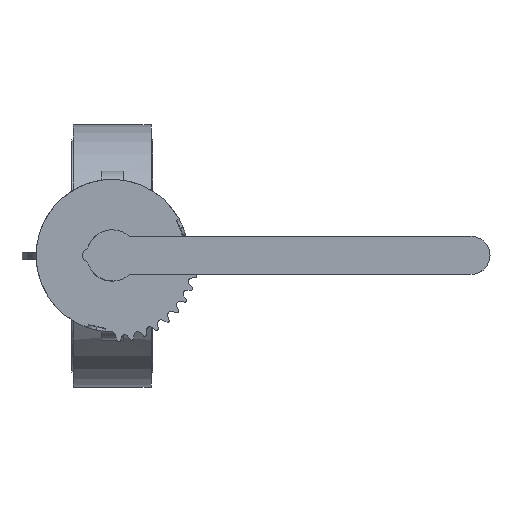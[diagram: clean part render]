
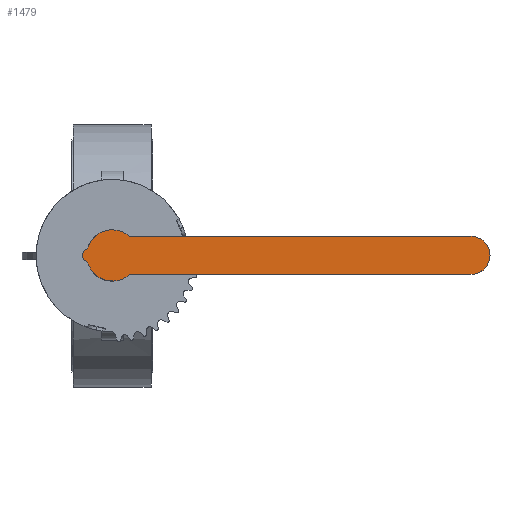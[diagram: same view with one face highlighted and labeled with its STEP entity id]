
A CAD part, top view. The second image highlights one B-rep face of the part: STEP entity #1479.
In plain terms, the highlighted planar face has unit normal (0, 0, 1).
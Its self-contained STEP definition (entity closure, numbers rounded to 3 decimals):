
#1479=ADVANCED_FACE('',(#3061),#3063,.T.);
#3061=FACE_BOUND('',#3062,.T.);
#3062=EDGE_LOOP('',(#4220,#4221,#4222,#4223,#4224,#4225,#4226,#4227));
#3063=PLANE('',#3064);
#3064=AXIS2_PLACEMENT_3D('',#3065,#3066,#3067);
#3065=CARTESIAN_POINT('',(0.,0.,220.));
#3066=DIRECTION('',(0.,0.,1.));
#3067=DIRECTION('',(1.,0.,0.));
#4220=ORIENTED_EDGE('',*,*,#4885,.T.);
#4221=ORIENTED_EDGE('',*,*,#4886,.T.);
#4222=ORIENTED_EDGE('',*,*,#4826,.T.);
#4223=ORIENTED_EDGE('',*,*,#4884,.T.);
#4224=ORIENTED_EDGE('',*,*,#4887,.T.);
#4225=ORIENTED_EDGE('',*,*,#4879,.T.);
#4226=ORIENTED_EDGE('',*,*,#4822,.T.);
#4227=ORIENTED_EDGE('',*,*,#4888,.T.);
#4822=EDGE_CURVE('',#5622,#5620,#5623,.T.);
#4826=EDGE_CURVE('',#5630,#5628,#5631,.T.);
#4879=EDGE_CURVE('',#5725,#5622,#5726,.T.);
#4884=EDGE_CURVE('',#5628,#5731,#5733,.T.);
#4885=EDGE_CURVE('',#5734,#5735,#5736,.F.);
#4886=EDGE_CURVE('',#5735,#5630,#5737,.T.);
#4887=EDGE_CURVE('',#5731,#5725,#5738,.T.);
#4888=EDGE_CURVE('',#5620,#5734,#5739,.T.);
#5620=VERTEX_POINT('',#8558);
#5622=VERTEX_POINT('',#8562);
#5623=CIRCLE('',#8563,17.5);
#5628=VERTEX_POINT('',#8576);
#5630=VERTEX_POINT('',#8580);
#5631=CIRCLE('',#8581,17.5);
#5725=VERTEX_POINT('',#8786);
#5726=LINE('',#8787,#8788);
#5731=VERTEX_POINT('',#8801);
#5733=LINE('',#8805,#8806);
#5734=VERTEX_POINT('',#8808);
#5735=VERTEX_POINT('',#8809);
#5736=CIRCLE('',#8810,13.);
#5737=LINE('',#8814,#8815);
#5738=CIRCLE('',#8817,4.);
#5739=LINE('',#8821,#8822);
#8558=CARTESIAN_POINT('',(11.715,-13.,220.));
#8562=CARTESIAN_POINT('',(-16.771,-5.,220.));
#8563=AXIS2_PLACEMENT_3D('',#8564,#8565,#8566);
#8564=CARTESIAN_POINT('',(0.,0.,220.));
#8565=DIRECTION('',(0.,0.,1.));
#8566=DIRECTION('',(-0.958,-0.286,0.));
#8576=CARTESIAN_POINT('',(-16.771,5.,220.));
#8580=CARTESIAN_POINT('',(11.715,13.,220.));
#8581=AXIS2_PLACEMENT_3D('',#8582,#8583,#8584);
#8582=CARTESIAN_POINT('',(0.,0.,220.));
#8583=DIRECTION('',(0.,0.,1.));
#8584=DIRECTION('',(0.669,0.743,0.));
#8786=CARTESIAN_POINT('',(-19.113,-3.119,220.));
#8787=CARTESIAN_POINT('',(-19.113,-3.119,220.));
#8788=VECTOR('',#8789,1.);
#8789=DIRECTION('',(0.78,-0.626,0.));
#8801=CARTESIAN_POINT('',(-19.113,3.119,220.));
#8805=CARTESIAN_POINT('',(-16.771,5.,220.));
#8806=VECTOR('',#8807,1.);
#8807=DIRECTION('',(-0.78,-0.626,0.));
#8808=CARTESIAN_POINT('',(245.,-13.,220.));
#8809=CARTESIAN_POINT('',(245.,13.,220.));
#8810=AXIS2_PLACEMENT_3D('',#8811,#8812,#8813);
#8811=CARTESIAN_POINT('',(245.,0.,220.));
#8812=DIRECTION('',(0.,0.,-1.));
#8813=DIRECTION('',(0.,1.,0.));
#8814=CARTESIAN_POINT('',(245.,13.,220.));
#8815=VECTOR('',#8816,1.);
#8816=DIRECTION('',(-1.,0.,0.));
#8817=AXIS2_PLACEMENT_3D('',#8818,#8819,#8820);
#8818=CARTESIAN_POINT('',(-16.61,0.,220.));
#8819=DIRECTION('',(0.,0.,1.));
#8820=DIRECTION('',(-0.626,0.78,0.));
#8821=CARTESIAN_POINT('',(11.715,-13.,220.));
#8822=VECTOR('',#8823,1.);
#8823=DIRECTION('',(1.,0.,0.));
